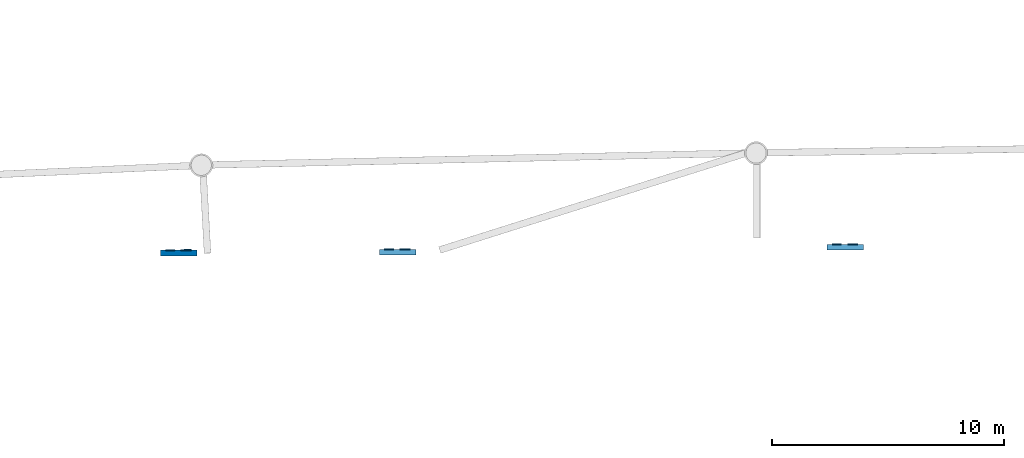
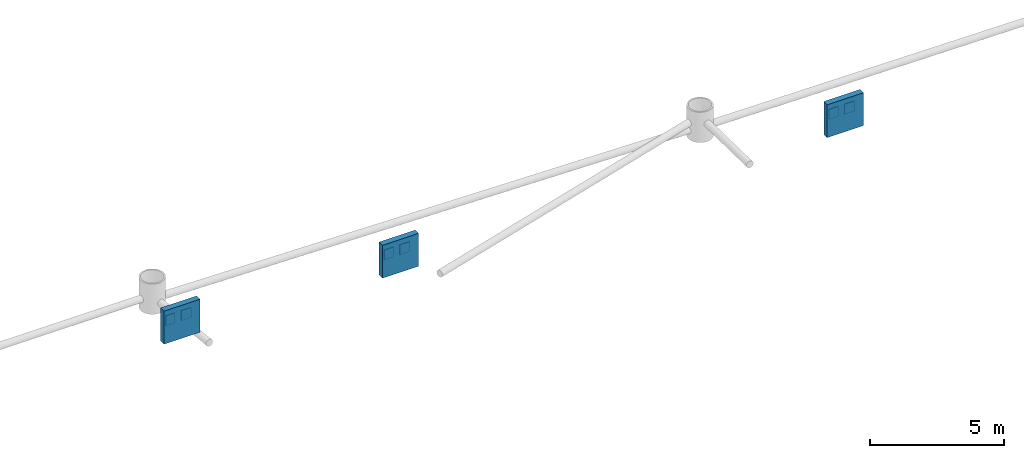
# One storey, part 1 of 3: 9 walls.
"""IFC4 building model written with IfcOpenShell, lengths in metres."""

from ifc_helpers import new_model, entity, si_unit, converted_unit, derived_unit, direction, frame, origin_with_axes, place, context, subcontext, project, spatial, line, indexed_curve, outline, extrude, material, layer, layer_set, layer_usage, type_object, element, save


model = new_model("IFC4")

# Units and contexts
model_context = context("Model", 3, precision=1e-05, world=origin_with_axes(), true_north=direction((0.0, 1.0)))
body_context = subcontext(model_context, "Body", "Model", "MODEL_VIEW")
ifc_project = project(units=[si_unit("LENGTHUNIT", "METRE"), si_unit("AREAUNIT", "SQUARE_METRE"), si_unit("VOLUMEUNIT", "CUBIC_METRE"), converted_unit("PLANEANGLEUNIT", "DEGREE", entity("IfcPlaneAngleMeasure", 0.0174532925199), si_unit("PLANEANGLEUNIT", "RADIAN"), dimensions=[0, 0, 0, 0, 0, 0, 0]), si_unit("SOLIDANGLEUNIT", "STERADIAN"), converted_unit("TIMEUNIT", "Year", entity("IfcTimeMeasure", 31556926.0), si_unit("TIMEUNIT", "SECOND"), dimensions=[0, 0, 1, 0, 0, 0, 0]), si_unit("MASSUNIT", "GRAM", prefix="KILO"), si_unit("THERMODYNAMICTEMPERATUREUNIT", "DEGREE_CELSIUS"), si_unit("LUMINOUSINTENSITYUNIT", "LUMEN"), si_unit("ENERGYUNIT", "JOULE", prefix="MEGA"), derived_unit("THERMALCONDUCTANCEUNIT", [(si_unit("POWERUNIT", "WATT"), 1), (si_unit("LENGTHUNIT", "METRE"), -1), (si_unit("THERMODYNAMICTEMPERATUREUNIT", "KELVIN"), -1)]), derived_unit("SPECIFICHEATCAPACITYUNIT", [(si_unit("ENERGYUNIT", "JOULE"), 1), (si_unit("MASSUNIT", "GRAM", prefix="KILO"), -1), (si_unit("THERMODYNAMICTEMPERATUREUNIT", "KELVIN"), -1)]), derived_unit("MASSDENSITYUNIT", [(si_unit("MASSUNIT", "GRAM", prefix="KILO"), 1), (si_unit("VOLUMEUNIT", "CUBIC_METRE"), -1)])], contexts=[model_context])

# Site, building, storey
site_placement = place(None, origin_with_axes())
site = spatial("IfcSite", under=ifc_project, at=site_placement, Name="Site", CompositionType="ELEMENT")
building_placement = place(site_placement, origin_with_axes())
building = spatial("IfcBuilding", under=site, at=building_placement, Name="Bâtiment", CompositionType="ELEMENT")
storey_placement = place(building_placement, origin_with_axes())
storey = spatial("IfcBuildingStorey", under=building, at=storey_placement, Name="0. Etage", CompositionType="ELEMENT", Elevation=0.0)

# Walls
ifc_material = material(Name="Béton armé (Apparent)")
ifc_layer_1 = layer(ifc_material, 0.25, ventilated="UNKNOWN", Name="Component 1")
ifc_layer_set_1 = layer_set([ifc_layer_1], Name="Béton armé (Apparent) 0.25")
ifc_layer_usage_1 = layer_usage(ifc_layer_set_1, "AXIS2", "POSITIVE", -0.125)
wall_type_1 = type_object("IfcWallType", Name="Béton armé (Apparent) 250", PredefinedType="NOTDEFINED")
wall_1_placement = place(storey_placement, frame((-37.9923852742, -0.2945142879, 37.7932472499), z_axis=(0.0, 0.0, 1.0), x_axis=(0.999994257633, 0.00338890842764, 0.0)))
element("IfcWall", 1, at=wall_1_placement, inside=storey, type_object=wall_type_1, material=ifc_layer_usage_1, Name="MUR_EXT-001", PredefinedType="NOTDEFINED", context=body_context, shape_type="SweptSolid", body=[
    extrude(outline(indexed_curve([(0.0, -0.125), (1.56524543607, -0.125), (1.56524543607, 0.125), (0.0, 0.125)], segments=[line(1, 2, 3, 4, 1)])), origin_with_axes(), (0.0, 0.0, 1.0), 1.5),
])
ifc_layer_usage_2 = layer_usage(ifc_layer_set_1, "AXIS2", "POSITIVE", -0.125)
wall_2_placement = place(storey_placement, frame((-57.2833207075, -0.509890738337, 38.2737901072), z_axis=(0.0, 0.0, 1.0), x_axis=(0.999994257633, 0.00338890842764, 0.0)))
element("IfcWall", 2, at=wall_2_placement, inside=storey, type_object=wall_type_1, material=ifc_layer_usage_2, Name="MUR_EXT-001", PredefinedType="NOTDEFINED", context=body_context, shape_type="SweptSolid", body=[
    extrude(outline(indexed_curve([(0.0, -0.125), (1.56524543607, -0.125), (1.56524543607, 0.125), (0.0, 0.125)], segments=[line(1, 2, 3, 4, 1)])), origin_with_axes(), (0.0, 0.0, 1.0), 1.5),
])
ifc_layer_usage_3 = layer_usage(ifc_layer_set_1, "AXIS2", "POSITIVE", -0.125)
wall_3_placement = place(storey_placement, frame((-66.7183458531, -0.541865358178, 38.5930493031), z_axis=(0.0, 0.0, 1.0), x_axis=(0.999994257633, 0.00338890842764, 0.0)))
element("IfcWall", 3, at=wall_3_placement, inside=storey, type_object=wall_type_1, material=ifc_layer_usage_3, Name="MUR_EXT-001", PredefinedType="NOTDEFINED", context=body_context, shape_type="SweptSolid", body=[
    extrude(outline(indexed_curve([(0.0, -0.125), (1.56524543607, -0.125), (1.56524543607, 0.125), (0.0, 0.125)], segments=[line(1, 2, 3, 4, 1)])), origin_with_axes(), (0.0, 0.0, 1.0), 1.5),
])
ifc_layer_2 = layer(ifc_material, 0.05, ventilated="UNKNOWN", Name="Component 1")
ifc_layer_set_2 = layer_set([ifc_layer_2], Name="Béton armé (Apparent) 0.05")
ifc_layer_usage_4 = layer_usage(ifc_layer_set_2, "AXIS2", "POSITIVE", -0.025)
wall_type_2 = type_object("IfcWallType", Name="Béton armé (Apparent) 50", PredefinedType="NOTDEFINED")
wall_4_placement = place(storey_placement, frame((-37.7788512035, -0.168789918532, 38.4095189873), z_axis=(0.0, 0.0, 1.0), x_axis=(0.999994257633, 0.00338890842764, 0.0)))
element("IfcWall", 4, at=wall_4_placement, inside=storey, type_object=wall_type_2, material=ifc_layer_usage_4, Name="MUR_EXT-002", PredefinedType="NOTDEFINED", context=body_context, shape_type="SweptSolid", body=[
    extrude(outline(indexed_curve([(0.0, -0.025), (0.398600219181, -0.025), (0.398600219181, 0.025), (0.0, 0.025)], segments=[line(1, 2, 3, 4, 1)])), origin_with_axes(), (0.0, 0.0, 1.0), 0.455678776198),
])
ifc_layer_usage_5 = layer_usage(ifc_layer_set_2, "AXIS2", "POSITIVE", -0.025)
wall_5_placement = place(storey_placement, frame((-37.1129601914, -0.166533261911, 38.4095189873), z_axis=(0.0, 0.0, 1.0), x_axis=(0.999994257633, 0.00338890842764, 0.0)))
element("IfcWall", 5, at=wall_5_placement, inside=storey, type_object=wall_type_2, material=ifc_layer_usage_5, Name="MUR_EXT-003", PredefinedType="NOTDEFINED", context=body_context, shape_type="SweptSolid", body=[
    extrude(outline(indexed_curve([(0.0, -0.025), (0.439376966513, -0.025), (0.439376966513, 0.025), (0.0, 0.025)], segments=[line(1, 2, 3, 4, 1)])), origin_with_axes(), (0.0, 0.0, 1.0), 0.455678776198),
])
ifc_layer_usage_6 = layer_usage(ifc_layer_set_2, "AXIS2", "POSITIVE", -0.025)
wall_6_placement = place(storey_placement, frame((-57.0697866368, -0.38416636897, 38.8900618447), z_axis=(0.0, 0.0, 1.0), x_axis=(0.999994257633, 0.00338890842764, 0.0)))
element("IfcWall", 6, at=wall_6_placement, inside=storey, type_object=wall_type_2, material=ifc_layer_usage_6, Name="MUR_EXT-002", PredefinedType="NOTDEFINED", context=body_context, shape_type="SweptSolid", body=[
    extrude(outline(indexed_curve([(0.0, -0.025), (0.398600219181, -0.025), (0.398600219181, 0.025), (0.0, 0.025)], segments=[line(1, 2, 3, 4, 1)])), origin_with_axes(), (0.0, 0.0, 1.0), 0.455678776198),
])
ifc_layer_usage_7 = layer_usage(ifc_layer_set_2, "AXIS2", "POSITIVE", -0.025)
wall_7_placement = place(storey_placement, frame((-56.4038956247, -0.381909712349, 38.8900618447), z_axis=(0.0, 0.0, 1.0), x_axis=(0.999994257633, 0.00338890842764, 0.0)))
element("IfcWall", 7, at=wall_7_placement, inside=storey, type_object=wall_type_2, material=ifc_layer_usage_7, Name="MUR_EXT-003", PredefinedType="NOTDEFINED", context=body_context, shape_type="SweptSolid", body=[
    extrude(outline(indexed_curve([(0.0, -0.025), (0.439376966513, -0.025), (0.439376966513, 0.025), (0.0, 0.025)], segments=[line(1, 2, 3, 4, 1)])), origin_with_axes(), (0.0, 0.0, 1.0), 0.455678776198),
])
ifc_layer_usage_8 = layer_usage(ifc_layer_set_2, "AXIS2", "POSITIVE", -0.025)
wall_8_placement = place(storey_placement, frame((-66.5048117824, -0.416140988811, 39.2093210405), z_axis=(0.0, 0.0, 1.0), x_axis=(0.999994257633, 0.00338890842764, 0.0)))
element("IfcWall", 8, at=wall_8_placement, inside=storey, type_object=wall_type_2, material=ifc_layer_usage_8, Name="MUR_EXT-002", PredefinedType="NOTDEFINED", context=body_context, shape_type="SweptSolid", body=[
    extrude(outline(indexed_curve([(0.0, -0.025), (0.398600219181, -0.025), (0.398600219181, 0.025), (0.0, 0.025)], segments=[line(1, 2, 3, 4, 1)])), origin_with_axes(), (0.0, 0.0, 1.0), 0.455678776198),
])
ifc_layer_usage_9 = layer_usage(ifc_layer_set_2, "AXIS2", "POSITIVE", -0.025)
wall_9_placement = place(storey_placement, frame((-65.8389207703, -0.413884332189, 39.2093210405), z_axis=(0.0, 0.0, 1.0), x_axis=(0.999994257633, 0.00338890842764, 0.0)))
element("IfcWall", 9, at=wall_9_placement, inside=storey, type_object=wall_type_2, material=ifc_layer_usage_9, Name="MUR_EXT-003", PredefinedType="NOTDEFINED", context=body_context, shape_type="SweptSolid", body=[
    extrude(outline(indexed_curve([(0.0, -0.025), (0.439376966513, -0.025), (0.439376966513, 0.025), (0.0, 0.025)], segments=[line(1, 2, 3, 4, 1)])), origin_with_axes(), (0.0, 0.0, 1.0), 0.455678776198),
])

save(model, "model.ifc")
